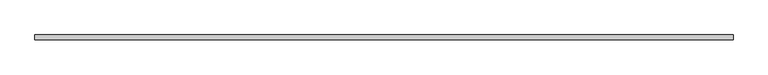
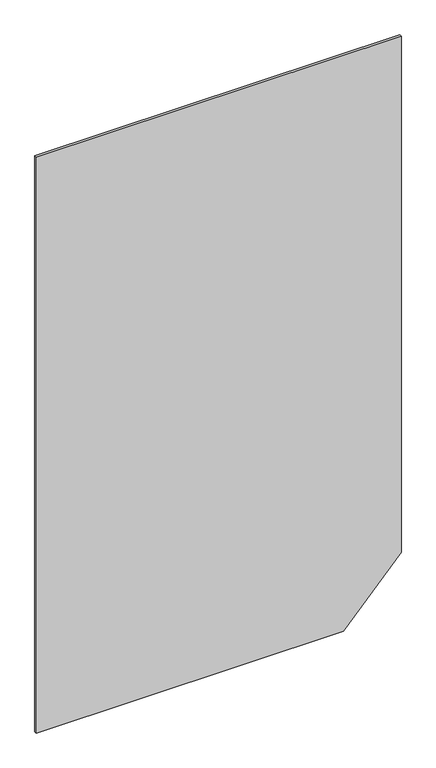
"""IFC4 building model written with IfcOpenShell, lengths in millimetres: plate geometry, 系統嵌板 : 玻璃 1.0cm."""

import ifcopenshell
import ifcopenshell.guid

model = None  # the IFC model being written
_history = None  # IfcOwnerHistory: only IFC2X3 demands one
_inside = {}  # id of a spatial element -> (the spatial element, [elements in it])
_under = {}  # id of a project, library or spatial element -> (it, [spatial elements below it])
_declared = {}  # id of a project -> (the project, [libraries it declares])
_typed = {}  # id of a type object -> (the type object, [elements of that type])
_made_of = {}  # id of a material, layer set ... -> (it, [elements and type objects made of it])


def new_model(schema):
    """Start an empty IFC model of exactly this schema.

    Asked for "IFC4X3", IfcOpenShell would pick the latest addendum, in which some entities
    have other attributes; the version numbers below select the first issue.
    IFC2X3 requires an IfcOwnerHistory on every rooted entity: one is made here for all.
    """
    global model, _history
    if schema == "IFC4X3":
        model = ifcopenshell.file(schema_version=(4, 3, 0, 0))
    else:
        model = ifcopenshell.file(schema=schema)
    _inside.clear()
    _under.clear()
    _declared.clear()
    _typed.clear()
    _made_of.clear()
    _history = None
    if model.schema == "IFC2X3":
        org = make("IfcOrganization", Name="unknown")
        user = make(
            "IfcPersonAndOrganization",
            ThePerson=make("IfcPerson", FamilyName="unknown"),
            TheOrganization=org,
        )
        app = make(
            "IfcApplication",
            ApplicationDeveloper=org,
            Version="unknown",
            ApplicationFullName="unknown",
            ApplicationIdentifier="unknown",
        )
        _history = make(
            "IfcOwnerHistory",
            OwningUser=user,
            OwningApplication=app,
            ChangeAction="ADDED",
            CreationDate=0,
        )
    return model


def make(cls, **values):
    """One entity of the class cls with the attributes given. An attribute that is None is left unset."""
    return model.create_entity(
        cls, **{name: value for name, value in values.items() if value is not None}
    )


def rooted(cls, **values):
    """An entity with a GlobalId (a new one), such as an element, a storey or a relation."""
    return make(cls, GlobalId=ifcopenshell.guid.new(), OwnerHistory=_history, **values)


def si_unit(unit_type, name, prefix=None):
    """IfcSIUnit, for example si_unit("LENGTHUNIT", "METRE", prefix="MILLI")."""
    return make("IfcSIUnit", UnitType=unit_type, Prefix=prefix, Name=name)


def assignment(units):
    """IfcUnitAssignment: the units of a project."""
    return None if units is None else make("IfcUnitAssignment", Units=units)


def point(xyz):
    """IfcCartesianPoint."""
    return None if xyz is None else make("IfcCartesianPoint", Coordinates=xyz)


def direction(xyz):
    """IfcDirection."""
    return None if xyz is None else make("IfcDirection", DirectionRatios=xyz)


def frame(location, z_axis=None, x_axis=None):
    """IfcAxis2Placement3D, a coordinate frame: its origin and axes. An axis left out is left unset."""
    return make(
        "IfcAxis2Placement3D",
        Location=point(location),
        Axis=direction(z_axis),
        RefDirection=direction(x_axis),
    )


def origin():
    """The frame at (0, 0, 0) with its axes left unset."""
    return frame((0.0, 0.0, 0.0))


def place(relative_to, where):
    """IfcLocalPlacement: puts the frame where relative to a parent placement (None: the world)."""
    return make(
        "IfcLocalPlacement", PlacementRelTo=relative_to, RelativePlacement=where
    )


def context(
    kind, dimensions, precision=None, world=None, true_north=None, identifier=None
):
    """IfcGeometricRepresentationContext, for example the 3D "Model" context."""
    return make(
        "IfcGeometricRepresentationContext",
        ContextIdentifier=identifier,
        ContextType=kind,
        CoordinateSpaceDimension=dimensions,
        Precision=precision,
        WorldCoordinateSystem=world,
        TrueNorth=true_north,
    )


def project(units=None, contexts=None):
    """IfcProject with its units and contexts."""
    return rooted(
        "IfcProject",
        Name="project",
        RepresentationContexts=contexts,
        UnitsInContext=assignment(units),
    )


def spatial(cls, under=None, at=None, **own):
    """A site, building, storey or space (cls), placed at a placement, below another one or the project."""
    s = rooted(cls, ObjectPlacement=at, **own)
    if under is not None:
        _under.setdefault(under.id(), (under, []))[1].append(s)
    return s


def polyline(points):
    """IfcPolyline through the points."""
    return make("IfcPolyline", Points=[point(p) for p in points])


def outline(outer, holes=None, kind="AREA"):
    """IfcArbitraryClosedProfileDef: a profile drawn as a closed curve; with holes, ...WithVoids."""
    if holes is None:
        return make("IfcArbitraryClosedProfileDef", ProfileType=kind, OuterCurve=outer)
    return make(
        "IfcArbitraryProfileDefWithVoids",
        ProfileType=kind,
        OuterCurve=outer,
        InnerCurves=holes,
    )


def extrude(swept, where, along, depth):
    """IfcExtrudedAreaSolid: the profile swept, set in the frame where, extruded along a direction by depth."""
    return make(
        "IfcExtrudedAreaSolid",
        SweptArea=swept,
        Position=where,
        ExtrudedDirection=direction(along),
        Depth=depth,
    )


def shape(context_of_items, identifier, shape_type, items):
    """IfcShapeRepresentation: the items that make up one representation, for example the "Body"."""
    return make(
        "IfcShapeRepresentation",
        ContextOfItems=context_of_items,
        RepresentationIdentifier=identifier,
        RepresentationType=shape_type,
        Items=items,
    )


def source(mapping_origin, context_of_items, identifier, shape_type, items):
    """IfcRepresentationMap: a shape defined once, which mapped items show again and again."""
    return make(
        "IfcRepresentationMap",
        MappingOrigin=mapping_origin,
        MappedRepresentation=shape(context_of_items, identifier, shape_type, items),
    )


def transform(
    local_origin,
    x_axis=None,
    y_axis=None,
    z_axis=None,
    scale=None,
    scale2=None,
    scale3=None,
    uniform=True,
):
    """IfcCartesianTransformationOperator3D, or its non-uniform kind. x_axis, y_axis, z_axis: its Axis1, 2, 3."""
    if uniform:
        return make(
            "IfcCartesianTransformationOperator3D",
            Axis1=direction(x_axis),
            Axis2=direction(y_axis),
            LocalOrigin=point(local_origin),
            Scale=scale,
            Axis3=direction(z_axis),
        )
    return make(
        "IfcCartesianTransformationOperator3DnonUniform",
        Axis1=direction(x_axis),
        Axis2=direction(y_axis),
        LocalOrigin=point(local_origin),
        Scale=scale,
        Axis3=direction(z_axis),
        Scale2=scale2,
        Scale3=scale3,
    )


def mapped(mapping_source, mapping_target):
    """IfcMappedItem: shows the shape of a source again, moved by a transform."""
    return make(
        "IfcMappedItem", MappingSource=mapping_source, MappingTarget=mapping_target
    )


def made_of(thing, what):
    """Note that an element or type object is made of a material, layer set ...; save() writes the relation."""
    if what is not None:
        _made_of.setdefault(what.id(), (what, []))[1].append(thing)
    return thing


def element(
    cls,
    number,
    at=None,
    inside=None,
    cuts=None,
    type_object=None,
    material=None,
    context=None,
    identifier="Body",
    shape_type=None,
    held_by="IfcProductDefinitionShape",
    body=None,
    shapes=None,
    **own,
):
    """One element of the class cls, such as IfcWall. Its Tag is "e" and its number.

    at: its placement. inside: the storey or other place that contains it. cuts: it is an
    opening in that element (IfcRelVoidsElement). A single representation is given by context,
    identifier, shape_type and body (its items); several are given by shapes. held_by: the class
    of the entity that holds the representations. save() writes the other relations.
    """
    e = rooted(cls, Tag="e%d" % number, ObjectPlacement=at, **own)
    if body is not None:
        shapes = [shape(context, identifier, shape_type, body)]
    if shapes is not None:
        e.Representation = make(held_by, Representations=shapes)
    if inside is not None:
        _inside.setdefault(inside.id(), (inside, []))[1].append(e)
    if cuts is not None:
        rooted(
            "IfcRelVoidsElement", RelatingBuildingElement=cuts, RelatedOpeningElement=e
        )
    if type_object is not None:
        _typed.setdefault(type_object.id(), (type_object, []))[1].append(e)
    return made_of(e, material)


def aggregate(whole, parts):
    """IfcRelAggregates: a whole, such as a stair, and the parts it consists of."""
    return rooted("IfcRelAggregates", RelatingObject=whole, RelatedObjects=parts)


def save(model, path):
    """Write the relations noted so far, then the file.

    IfcRelAggregates (storeys below a building ...), IfcRelContainedInSpatialStructure (elements
    in a storey), IfcRelDefinesByType, IfcRelAssociatesMaterial and IfcRelDeclares: one each for
    every whole, place, type object, material and project.
    """
    for whole, parts in _under.values():
        aggregate(whole, parts)
    for where, things in _inside.values():
        rooted(
            "IfcRelContainedInSpatialStructure",
            RelatedElements=things,
            RelatingStructure=where,
        )
    for kind, things in _typed.values():
        rooted("IfcRelDefinesByType", RelatedObjects=things, RelatingType=kind)
    for what, things in _made_of.values():
        rooted("IfcRelAssociatesMaterial", RelatedObjects=things, RelatingMaterial=what)
    for by, libraries in _declared.values():
        rooted("IfcRelDeclares", RelatingContext=by, RelatedDefinitions=libraries)
    model.write(path)


def plate_a14206f2(model_context):
    return source(origin(), model_context, "Body", "SweptSolid", [
        extrude(outline(polyline([(0.0, -750.0), (0.0, 512.6115238), (259.3592913, 750.0), (2500.0, 750.0), (2500.0, -750.0), (0.0, -750.0)])), frame((0.0, -5.0, 0.0), z_axis=(0.0, 1.0, 0.0), x_axis=(0.0, 0.0, 1.0)), (0.0, 0.0, 1.0), 10.0),
    ])


if __name__ == "__main__":
    model = new_model("IFC4")
    model_context = context("Model", 3, world=origin())
    ifc_project = project(units=[si_unit("LENGTHUNIT", "METRE", prefix="MILLI")], contexts=[model_context])
    site = spatial("IfcSite", under=ifc_project)
    building = spatial("IfcBuilding", under=site)
    placement = place(None, origin())
    plate_shape = plate_a14206f2(model_context)
    element("IfcPlate", 1, ObjectType="系統嵌板 : 玻璃 1.0cm", at=placement, inside=building, context=model_context, shape_type="MappedRepresentation", body=[
        mapped(plate_shape, transform((0.0, 0.0, 0.0), x_axis=(1.0, 0.0, 0.0), y_axis=(0.0, 1.0, 0.0), z_axis=(0.0, 0.0, 1.0))),
    ])
    save(model, "model.ifc")
